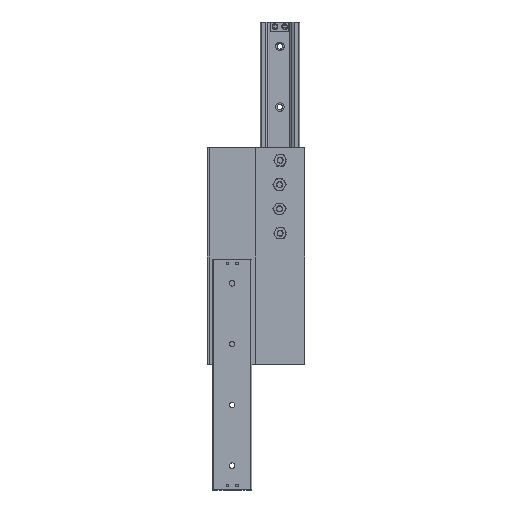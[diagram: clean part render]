
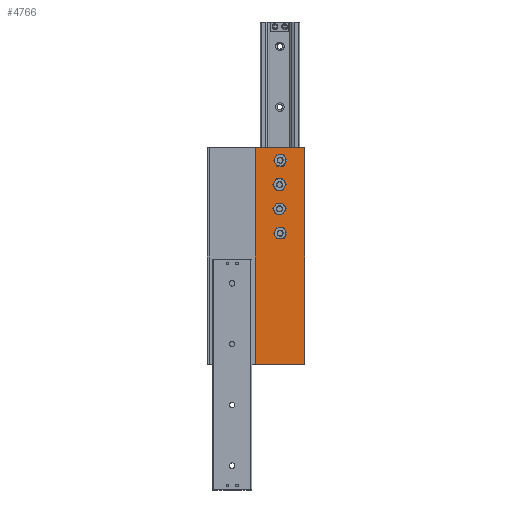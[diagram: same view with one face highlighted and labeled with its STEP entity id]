
A CAD part, left-side view. The second image highlights one B-rep face of the part: STEP entity #4766.
In plain terms, the highlighted planar face has unit normal (-1, 0, 0).
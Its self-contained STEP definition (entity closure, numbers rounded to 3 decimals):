
#84 = DIRECTION ( 'NONE',  ( 0., 0., -1. ) ) ;
#137 = CARTESIAN_POINT ( 'NONE',  ( 0., 41.3, 263.5 ) ) ;
#282 = ORIENTED_EDGE ( 'NONE', *, *, #7846, .F. ) ;
#368 = ORIENTED_EDGE ( 'NONE', *, *, #3587, .F. ) ;
#604 = DIRECTION ( 'NONE',  ( 0., 0., -1. ) ) ;
#637 = ORIENTED_EDGE ( 'NONE', *, *, #7608, .F. ) ;
#647 = VECTOR ( 'NONE', #1396, 1000. ) ;
#695 = EDGE_CURVE ( 'NONE', #8142, #8142, #2752, .T. ) ;
#750 = EDGE_LOOP ( 'NONE', ( #282 ) ) ;
#916 = CARTESIAN_POINT ( 'NONE',  ( 0., 40.3, 223.5 ) ) ;
#1060 = DIRECTION ( 'NONE',  ( -1., 0., 0. ) ) ;
#1265 = DIRECTION ( 'NONE',  ( -1., 0., 0. ) ) ;
#1300 = CARTESIAN_POINT ( 'NONE',  ( 0., 0., 0. ) ) ;
#1396 = DIRECTION ( 'NONE',  ( 0., 1., 0. ) ) ;
#1413 = DIRECTION ( 'NONE',  ( 0., 0., 1. ) ) ;
#1629 = ORIENTED_EDGE ( 'NONE', *, *, #2045, .F. ) ;
#1974 = EDGE_LOOP ( 'NONE', ( #368, #637, #4243, #4509 ) ) ;
#1994 = CARTESIAN_POINT ( 'NONE',  ( 0., 81.6, 356. ) ) ;
#2045 = EDGE_CURVE ( 'NONE', #5889, #5889, #2937, .T. ) ;
#2344 = LINE ( 'NONE', #5295, #4265 ) ;
#2615 = FACE_BOUND ( 'NONE', #750, .T. ) ;
#2709 = EDGE_CURVE ( 'NONE', #8322, #8322, #2944, .T. ) ;
#2715 = AXIS2_PLACEMENT_3D ( 'NONE', #9402, #5715, #1413 ) ;
#2752 = CIRCLE ( 'NONE', #5075, 8. ) ;
#2798 = CARTESIAN_POINT ( 'NONE',  ( 0., 0., 356. ) ) ;
#2854 = CARTESIAN_POINT ( 'NONE',  ( 0., 40.3, 335.5 ) ) ;
#2937 = CIRCLE ( 'NONE', #7842, 8. ) ;
#2944 = CIRCLE ( 'NONE', #6944, 8. ) ;
#2958 = CARTESIAN_POINT ( 'NONE',  ( 0., 81.6, 356. ) ) ;
#2961 = AXIS2_PLACEMENT_3D ( 'NONE', #5612, #1265, #4217 ) ;
#3587 = EDGE_CURVE ( 'NONE', #7654, #6763, #5793, .T. ) ;
#3918 = CARTESIAN_POINT ( 'NONE',  ( 0., 41.3, 295.5 ) ) ;
#4009 = DIRECTION ( 'NONE',  ( 0., 0., 1. ) ) ;
#4125 = FACE_BOUND ( 'NONE', #5983, .T. ) ;
#4217 = DIRECTION ( 'NONE',  ( 0., 0., 1. ) ) ;
#4243 = ORIENTED_EDGE ( 'NONE', *, *, #7987, .T. ) ;
#4265 = VECTOR ( 'NONE', #84, 1000. ) ;
#4509 = ORIENTED_EDGE ( 'NONE', *, *, #7804, .T. ) ;
#4729 = VECTOR ( 'NONE', #604, 1000. ) ;
#4766 = ADVANCED_FACE ( 'NONE', ( #7765, #2615, #5565, #4125, #4940 ), #4895, .T. ) ;
#4875 = ORIENTED_EDGE ( 'NONE', *, *, #695, .F. ) ;
#4895 = PLANE ( 'NONE',  #2961 ) ;
#4940 = FACE_OUTER_BOUND ( 'NONE', #1974, .T. ) ;
#5075 = AXIS2_PLACEMENT_3D ( 'NONE', #8205, #8514, #9226 ) ;
#5137 = LINE ( 'NONE', #1994, #4729 ) ;
#5282 = CARTESIAN_POINT ( 'NONE',  ( 0., 0., 356. ) ) ;
#5295 = CARTESIAN_POINT ( 'NONE',  ( 0., 0., 356. ) ) ;
#5324 = LINE ( 'NONE', #5282, #7784 ) ;
#5565 = FACE_BOUND ( 'NONE', #8231, .T. ) ;
#5612 = CARTESIAN_POINT ( 'NONE',  ( 0., 0., 356. ) ) ;
#5715 = DIRECTION ( 'NONE',  ( -1., 0., 0. ) ) ;
#5793 = LINE ( 'NONE', #1300, #647 ) ;
#5889 = VERTEX_POINT ( 'NONE', #8801 ) ;
#5983 = EDGE_LOOP ( 'NONE', ( #1629 ) ) ;
#6376 = DIRECTION ( 'NONE',  ( -1., 0., 0. ) ) ;
#6526 = ORIENTED_EDGE ( 'NONE', *, *, #2709, .F. ) ;
#6623 = DIRECTION ( 'NONE',  ( 0., 1., 0. ) ) ;
#6744 = VERTEX_POINT ( 'NONE', #137 ) ;
#6763 = VERTEX_POINT ( 'NONE', #7148 ) ;
#6944 = AXIS2_PLACEMENT_3D ( 'NONE', #3918, #1060, #4009 ) ;
#7148 = CARTESIAN_POINT ( 'NONE',  ( 0., 81.6, 0. ) ) ;
#7169 = VERTEX_POINT ( 'NONE', #2958 ) ;
#7608 = EDGE_CURVE ( 'NONE', #9409, #7654, #2344, .T. ) ;
#7654 = VERTEX_POINT ( 'NONE', #8398 ) ;
#7765 = FACE_BOUND ( 'NONE', #8742, .T. ) ;
#7784 = VECTOR ( 'NONE', #6623, 1000. ) ;
#7804 = EDGE_CURVE ( 'NONE', #7169, #6763, #5137, .T. ) ;
#7842 = AXIS2_PLACEMENT_3D ( 'NONE', #2854, #6376, #9288 ) ;
#7846 = EDGE_CURVE ( 'NONE', #6744, #6744, #8404, .T. ) ;
#7987 = EDGE_CURVE ( 'NONE', #9409, #7169, #5324, .T. ) ;
#8142 = VERTEX_POINT ( 'NONE', #916 ) ;
#8205 = CARTESIAN_POINT ( 'NONE',  ( 0., 40.3, 215.5 ) ) ;
#8231 = EDGE_LOOP ( 'NONE', ( #6526 ) ) ;
#8322 = VERTEX_POINT ( 'NONE', #8370 ) ;
#8370 = CARTESIAN_POINT ( 'NONE',  ( 0., 41.3, 303.5 ) ) ;
#8398 = CARTESIAN_POINT ( 'NONE',  ( 0., 0., 0. ) ) ;
#8404 = CIRCLE ( 'NONE', #2715, 8. ) ;
#8514 = DIRECTION ( 'NONE',  ( -1., 0., 0. ) ) ;
#8742 = EDGE_LOOP ( 'NONE', ( #4875 ) ) ;
#8801 = CARTESIAN_POINT ( 'NONE',  ( 0., 40.3, 343.5 ) ) ;
#9226 = DIRECTION ( 'NONE',  ( 0., 0., 1. ) ) ;
#9288 = DIRECTION ( 'NONE',  ( 0., 0., 1. ) ) ;
#9402 = CARTESIAN_POINT ( 'NONE',  ( 0., 41.3, 255.5 ) ) ;
#9409 = VERTEX_POINT ( 'NONE', #2798 ) ;
